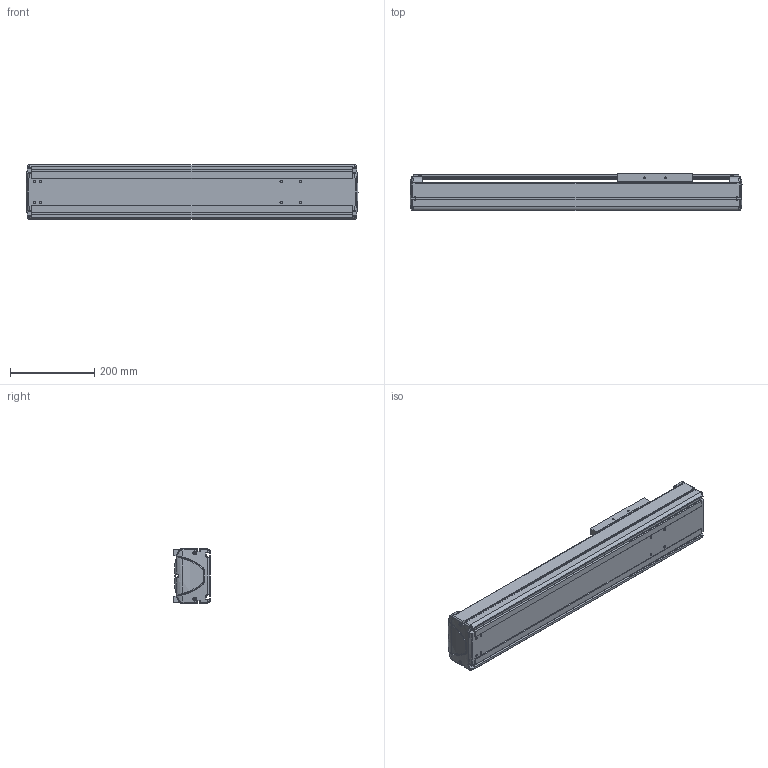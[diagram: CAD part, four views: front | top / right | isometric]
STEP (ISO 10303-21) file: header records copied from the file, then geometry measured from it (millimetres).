
FILE_DESCRIPTION((''),'2;1');
FILE_NAME('BE30E-ST-L_N-45_IGS_PRT','2017-06-17T',(' '),(''),'PRO/ENGINEER BY PARAMETRIC TECHNOLOGY CORPORATION, 2015030','PRO/ENGINEER BY PARAMETRIC TECHNOLOGY CORPORATION, 2015030','');
FILE_SCHEMA(('CONFIG_CONTROL_DESIGN'));
Length unit declared in the file: millimetre
Products named in the file (1): BE30E-ST-L_N-45_IGS_PRT
Bounding box: 790 x 89.8 x 130 mm (x, y, z)
Volume: 2741413.6 mm3; surface area: 992431.9 mm2
Topology: 2 solids, 76 shells, 1339 faces, 3595 edges, 2343 vertices
Faces by surface type: plane 608, cylinder 575, bspline 56, torus 46, cone 30, sphere 24
Entity records: 44942 total; most frequent: CARTESIAN_POINT 11322, DIRECTION 6926, ORIENTED_EDGE 6855, EDGE_CURVE 3575, AXIS2_PLACEMENT_3D 2483, VERTEX_POINT 2343, VECTOR 1960, LINE 1960
